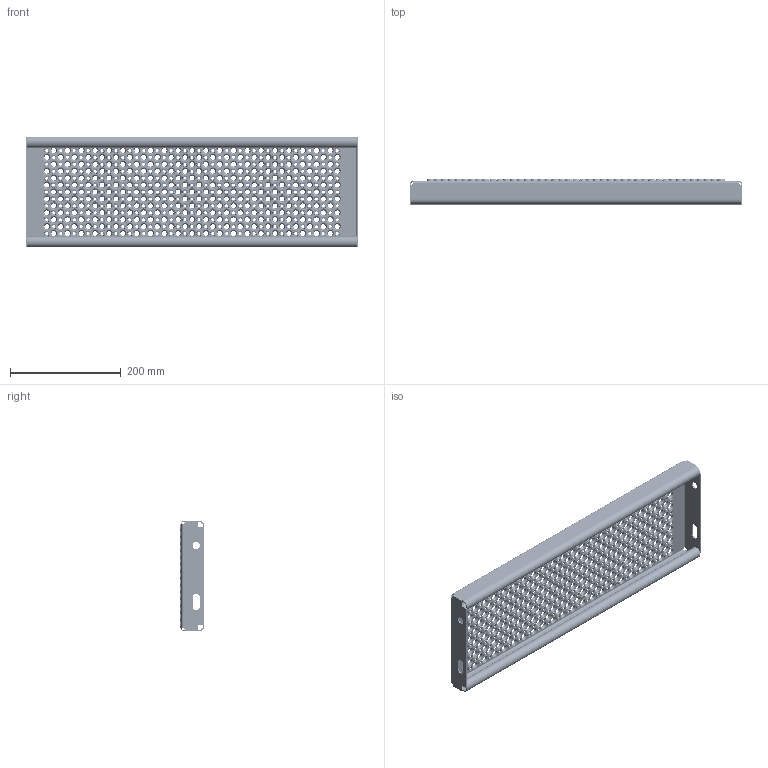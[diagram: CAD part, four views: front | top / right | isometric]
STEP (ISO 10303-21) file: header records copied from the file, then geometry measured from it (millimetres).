
FILE_DESCRIPTION (( 'STEP AP214' ), '1' );
FILE_NAME ('OPTIMO-Tread-Achil-O2-600x200x45x2-st240-F100110100.STEP', '2021-03-15T09:37:13', ( '' ), ( '' ), 'SwSTEP 2.0', 'SolidWorks 2021', '' );
FILE_SCHEMA (( 'AUTOMOTIVE_DESIGN' ));
Length unit declared in the file: millimetre
Products named in the file (1): OPTIMO-Tread-Achil-O2-600x200x45x2-st240-F100110100
Bounding box: 600 x 45 x 200 mm (x, y, z)
Volume: 455062.1 mm3; surface area: 491054.2 mm2
Topology: 1 solids, 1 shells, 6532 faces, 16970 edges, 10440 vertices
Faces by surface type: cone 3870, torus 2580, plane 38, cylinder 36, bspline 8
Entity records: 208024 total; most frequent: DIRECTION 42944, CARTESIAN_POINT 34535, ORIENTED_EDGE 33940, AXIS2_PLACEMENT_3D 19481, EDGE_CURVE 16970, CIRCLE 12956, VERTEX_POINT 10440, EDGE_LOOP 7830
